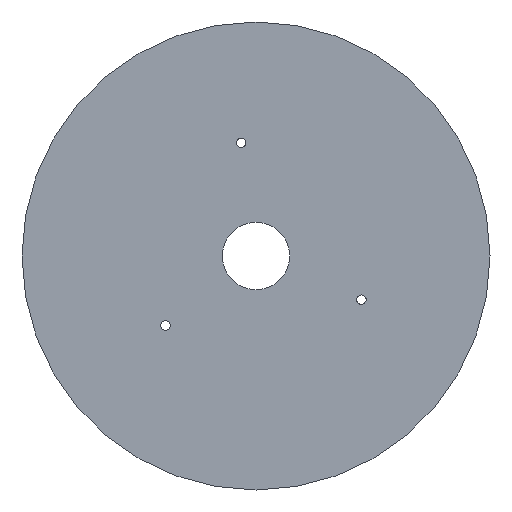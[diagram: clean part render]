
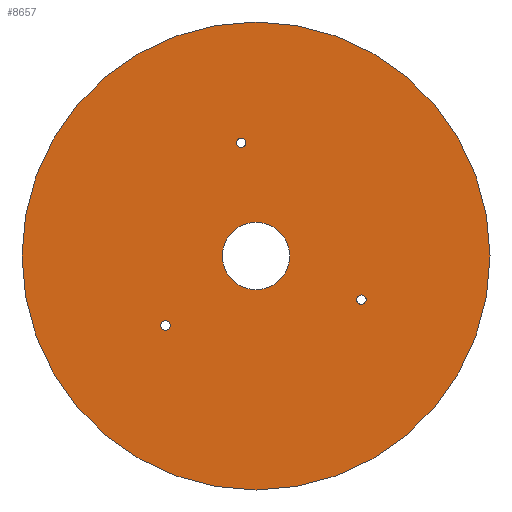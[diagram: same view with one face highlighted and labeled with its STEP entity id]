
A CAD part, front view. The second image highlights one B-rep face of the part: STEP entity #8657.
In plain terms, the highlighted planar face has unit normal (0, -1, 0).
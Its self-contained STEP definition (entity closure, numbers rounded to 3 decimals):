
#388 = CIRCLE ( 'NONE', #402, 0.8 ) ;
#391 = CIRCLE ( 'NONE', #396, 5.75 ) ;
#396 = AXIS2_PLACEMENT_3D ( 'NONE', #9471, #9469, #9468 ) ;
#397 = CIRCLE ( 'NONE', #408, 0.8 ) ;
#402 = AXIS2_PLACEMENT_3D ( 'NONE', #9458, #9457, #9456 ) ;
#403 = CIRCLE ( 'NONE', #415, 0.8 ) ;
#408 = AXIS2_PLACEMENT_3D ( 'NONE', #9445, #9443, #9442 ) ;
#415 = AXIS2_PLACEMENT_3D ( 'NONE', #9432, #9431, #9429 ) ;
#420 = CIRCLE ( 'NONE', #421, 40. ) ;
#421 = AXIS2_PLACEMENT_3D ( 'NONE', #9419, #9418, #9417 ) ;
#791 = EDGE_CURVE ( 'NONE', #6394, #6392, #391, .T. ) ;
#795 = EDGE_CURVE ( 'NONE', #6389, #6388, #388, .T. ) ;
#799 = EDGE_CURVE ( 'NONE', #6385, #6384, #397, .T. ) ;
#803 = EDGE_CURVE ( 'NONE', #6381, #6380, #403, .T. ) ;
#807 = EDGE_CURVE ( 'NONE', #6377, #6376, #420, .T. ) ;
#1759 = FACE_BOUND ( 'NONE', #12064, .T. ) ;
#1760 = FACE_BOUND ( 'NONE', #12065, .T. ) ;
#1761 = FACE_BOUND ( 'NONE', #12066, .T. ) ;
#1762 = FACE_BOUND ( 'NONE', #12067, .T. ) ;
#1763 = FACE_OUTER_BOUND ( 'NONE', #12068, .T. ) ;
#3472 = DIRECTION ( 'NONE',  ( 0., 0., -1. ) ) ;
#3473 = DIRECTION ( 'NONE',  ( 0., -1., 0. ) ) ;
#3475 = CARTESIAN_POINT ( 'NONE',  ( 18.016, 0., -7.462 ) ) ;
#3476 = DIRECTION ( 'NONE',  ( 0., 0., -1. ) ) ;
#3478 = DIRECTION ( 'NONE',  ( 0., -1., 0. ) ) ;
#3479 = CARTESIAN_POINT ( 'NONE',  ( -15.47, 0., -11.871 ) ) ;
#3481 = DIRECTION ( 'NONE',  ( 0., 0., -1. ) ) ;
#3482 = DIRECTION ( 'NONE',  ( 0., -1., 0. ) ) ;
#3483 = CARTESIAN_POINT ( 'NONE',  ( -2.545, 0., 19.333 ) ) ;
#3485 = DIRECTION ( 'NONE',  ( 0., 0., -1. ) ) ;
#3486 = DIRECTION ( 'NONE',  ( 0., -1., 0. ) ) ;
#3487 = CARTESIAN_POINT ( 'NONE',  ( 0., 0., 0. ) ) ;
#3489 = DIRECTION ( 'NONE',  ( 0., 0., 1. ) ) ;
#3490 = DIRECTION ( 'NONE',  ( 0., 1., 0. ) ) ;
#3491 = CARTESIAN_POINT ( 'NONE',  ( 0., 0., 0. ) ) ;
#3502 = CARTESIAN_POINT ( 'NONE',  ( 0., 0., 5.75 ) ) ;
#3504 = CARTESIAN_POINT ( 'NONE',  ( 0., 0., -5.75 ) ) ;
#3508 = CARTESIAN_POINT ( 'NONE',  ( -2.545, 0., 20.133 ) ) ;
#3509 = CARTESIAN_POINT ( 'NONE',  ( -2.545, 0., 18.533 ) ) ;
#3513 = CARTESIAN_POINT ( 'NONE',  ( -15.47, 0., -11.071 ) ) ;
#3514 = CARTESIAN_POINT ( 'NONE',  ( -15.47, 0., -12.671 ) ) ;
#3518 = CARTESIAN_POINT ( 'NONE',  ( 18.016, 0., -6.662 ) ) ;
#3520 = CARTESIAN_POINT ( 'NONE',  ( 18.016, 0., -8.262 ) ) ;
#3523 = CARTESIAN_POINT ( 'NONE',  ( 0., 0., 40. ) ) ;
#3525 = CARTESIAN_POINT ( 'NONE',  ( 0., 0., -40. ) ) ;
#4654 = PLANE ( 'NONE',  #10809 ) ;
#4655 = CARTESIAN_POINT ( 'NONE',  ( 0., 0., 0. ) ) ;
#4656 = DIRECTION ( 'NONE',  ( 0., 1., 0. ) ) ;
#4657 = DIRECTION ( 'NONE',  ( 0., 0., 1. ) ) ;
#6376 = VERTEX_POINT ( 'NONE', #3525 ) ;
#6377 = VERTEX_POINT ( 'NONE', #3523 ) ;
#6380 = VERTEX_POINT ( 'NONE', #3520 ) ;
#6381 = VERTEX_POINT ( 'NONE', #3518 ) ;
#6384 = VERTEX_POINT ( 'NONE', #3514 ) ;
#6385 = VERTEX_POINT ( 'NONE', #3513 ) ;
#6388 = VERTEX_POINT ( 'NONE', #3509 ) ;
#6389 = VERTEX_POINT ( 'NONE', #3508 ) ;
#6392 = VERTEX_POINT ( 'NONE', #3504 ) ;
#6394 = VERTEX_POINT ( 'NONE', #3502 ) ;
#6648 = EDGE_CURVE ( 'NONE', #6376, #6377, #10210, .T. ) ;
#6649 = EDGE_CURVE ( 'NONE', #6392, #6394, #10268, .T. ) ;
#6650 = EDGE_CURVE ( 'NONE', #6388, #6389, #10208, .T. ) ;
#6651 = EDGE_CURVE ( 'NONE', #6384, #6385, #10275, .T. ) ;
#6652 = EDGE_CURVE ( 'NONE', #6380, #6381, #10277, .T. ) ;
#8438 = ORIENTED_EDGE ( 'NONE', *, *, #6650, .F. ) ;
#8439 = ORIENTED_EDGE ( 'NONE', *, *, #6649, .F. ) ;
#8440 = ORIENTED_EDGE ( 'NONE', *, *, #6651, .F. ) ;
#8441 = ORIENTED_EDGE ( 'NONE', *, *, #791, .F. ) ;
#8442 = ORIENTED_EDGE ( 'NONE', *, *, #6652, .F. ) ;
#8443 = ORIENTED_EDGE ( 'NONE', *, *, #795, .F. ) ;
#8444 = ORIENTED_EDGE ( 'NONE', *, *, #6648, .F. ) ;
#8445 = ORIENTED_EDGE ( 'NONE', *, *, #799, .F. ) ;
#8447 = ORIENTED_EDGE ( 'NONE', *, *, #803, .F. ) ;
#8448 = ORIENTED_EDGE ( 'NONE', *, *, #807, .F. ) ;
#8657 = ADVANCED_FACE ( 'NONE', ( #1759, #1760, #1761, #1762, #1763 ), #4654, .F. ) ;
#9417 = DIRECTION ( 'NONE',  ( 0., 0., 1. ) ) ;
#9418 = DIRECTION ( 'NONE',  ( 0., 1., 0. ) ) ;
#9419 = CARTESIAN_POINT ( 'NONE',  ( 0., 0., 0. ) ) ;
#9429 = DIRECTION ( 'NONE',  ( 0., 0., -1. ) ) ;
#9431 = DIRECTION ( 'NONE',  ( 0., -1., 0. ) ) ;
#9432 = CARTESIAN_POINT ( 'NONE',  ( 18.016, 0., -7.462 ) ) ;
#9442 = DIRECTION ( 'NONE',  ( 0., 0., -1. ) ) ;
#9443 = DIRECTION ( 'NONE',  ( 0., -1., 0. ) ) ;
#9445 = CARTESIAN_POINT ( 'NONE',  ( -15.47, 0., -11.871 ) ) ;
#9456 = DIRECTION ( 'NONE',  ( 0., 0., -1. ) ) ;
#9457 = DIRECTION ( 'NONE',  ( 0., -1., 0. ) ) ;
#9458 = CARTESIAN_POINT ( 'NONE',  ( -2.545, 0., 19.333 ) ) ;
#9468 = DIRECTION ( 'NONE',  ( 0., 0., -1. ) ) ;
#9469 = DIRECTION ( 'NONE',  ( 0., -1., 0. ) ) ;
#9471 = CARTESIAN_POINT ( 'NONE',  ( 0., 0., 0. ) ) ;
#10208 = CIRCLE ( 'NONE', #10280, 0.8 ) ;
#10210 = CIRCLE ( 'NONE', #10276, 40. ) ;
#10268 = CIRCLE ( 'NONE', #10278, 5.75 ) ;
#10275 = CIRCLE ( 'NONE', #10282, 0.8 ) ;
#10276 = AXIS2_PLACEMENT_3D ( 'NONE', #3491, #3490, #3489 ) ;
#10277 = CIRCLE ( 'NONE', #10284, 0.8 ) ;
#10278 = AXIS2_PLACEMENT_3D ( 'NONE', #3487, #3486, #3485 ) ;
#10280 = AXIS2_PLACEMENT_3D ( 'NONE', #3483, #3482, #3481 ) ;
#10282 = AXIS2_PLACEMENT_3D ( 'NONE', #3479, #3478, #3476 ) ;
#10284 = AXIS2_PLACEMENT_3D ( 'NONE', #3475, #3473, #3472 ) ;
#10809 = AXIS2_PLACEMENT_3D ( 'NONE', #4655, #4656, #4657 ) ;
#12064 = EDGE_LOOP ( 'NONE', ( #8439, #8441 ) ) ;
#12065 = EDGE_LOOP ( 'NONE', ( #8438, #8443 ) ) ;
#12066 = EDGE_LOOP ( 'NONE', ( #8440, #8445 ) ) ;
#12067 = EDGE_LOOP ( 'NONE', ( #8442, #8447 ) ) ;
#12068 = EDGE_LOOP ( 'NONE', ( #8444, #8448 ) ) ;
